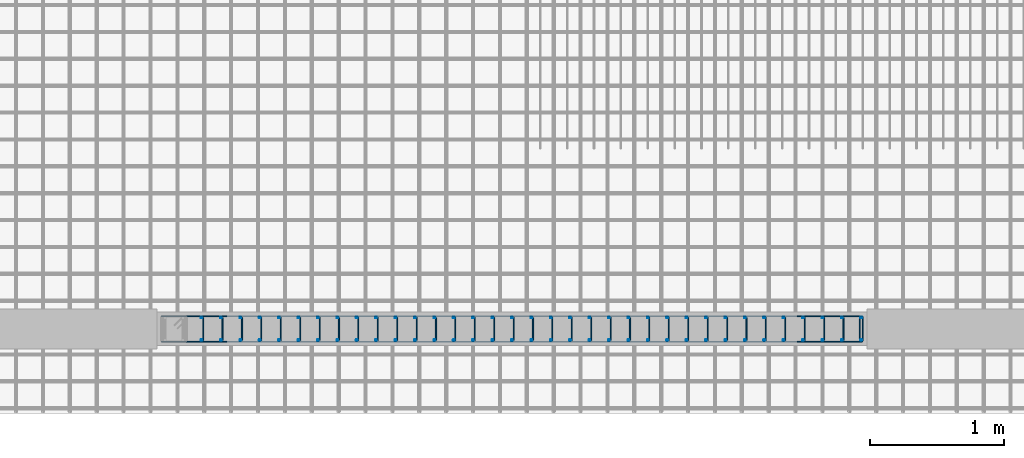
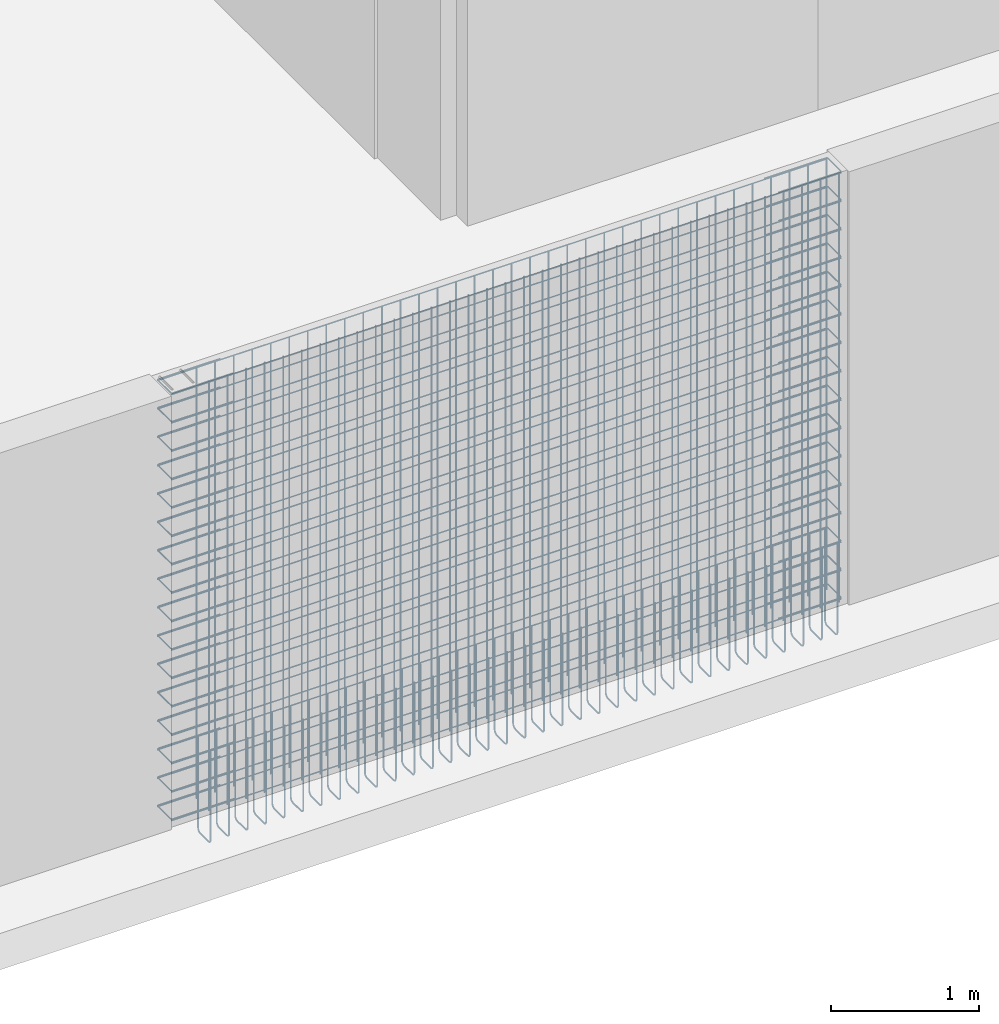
# One storey, part 2 of 8: 4 reinforcing bars.
"""IFC4 building model written with IfcOpenShell, lengths in metres."""

from ifc_helpers import new_model, entity, si_unit, origin_with_axes, place, context, project, spatial, source, transform, mapped, element, save


model = new_model("IFC4")

# Units and contexts
model_context = context("Model", 3, precision=1e-05, world=origin_with_axes())
ifc_project = project(units=[si_unit("LENGTHUNIT", "METRE"), si_unit("AREAUNIT", "SQUARE_METRE"), si_unit("VOLUMEUNIT", "CUBIC_METRE"), si_unit("MASSUNIT", "GRAM", prefix="KILO"), si_unit("TIMEUNIT", "SECOND"), si_unit("PLANEANGLEUNIT", "RADIAN"), si_unit("SOLIDANGLEUNIT", "STERADIAN"), si_unit("THERMODYNAMICTEMPERATUREUNIT", "DEGREE_CELSIUS")], contexts=[model_context])

# Site, building, storey
placement_1 = place(None, origin_with_axes())
site = spatial("IfcSite", under=ifc_project, at=placement_1, Name="Italia", CompositionType="ELEMENT")
building = spatial("IfcBuilding", under=site, at=placement_1, Name="Abitazione", CompositionType="ELEMENT")
storey = spatial("IfcBuildingStorey", under=building, at=placement_1, Name="Storey 0", CompositionType="ELEMENT", Elevation=0.0)

# Reinforcing bars
shared_shape_1 = source(origin_with_axes(), model_context, "Body", "AdvancedSweptSolid", [
    entity("IfcSweptDiskSolid", entity("IfcIndexedPolyCurve", entity("IfcCartesianPointList3D", [[8.089, 0.874, 0.0], [8.089, 0.874, 3.545]]), [entity("IfcLineIndex", [1, 2])], False), 0.006),
])
placement_2 = place(placement_1, origin_with_axes())
reinforcing_bar_1_placement = place(placement_2, origin_with_axes())
element("IfcReinforcingBar", 1, at=reinforcing_bar_1_placement, inside=storey, BarLength=3.545, CrossSectionArea=0.0001131, NominalDiameter=0.012, context=model_context, shape_type="MappedRepresentation", body=[
    mapped(shared_shape_1, transform((-1.44389, -0.168, 0.0), x_axis=(1.0, 0.0, 0.0), y_axis=(0.0, 1.0, 0.0), z_axis=(0.0, 0.0, 1.0), scale=1.0)),
    mapped(shared_shape_1, transform((-1.44389, 0.0, 0.0), x_axis=(1.0, 0.0, 0.0), y_axis=(0.0, 1.0, 0.0), z_axis=(0.0, 0.0, 1.0), scale=1.0)),
    mapped(shared_shape_1, transform((-1.2995, -0.168, 0.0), x_axis=(1.0, 0.0, 0.0), y_axis=(0.0, 1.0, 0.0), z_axis=(0.0, 0.0, 1.0), scale=1.0)),
    mapped(shared_shape_1, transform((-1.2995, 0.0, 0.0), x_axis=(1.0, 0.0, 0.0), y_axis=(0.0, 1.0, 0.0), z_axis=(0.0, 0.0, 1.0), scale=1.0)),
    mapped(shared_shape_1, transform((-2.45461, 0.0, 0.0), x_axis=(1.0, 0.0, 0.0), y_axis=(0.0, 1.0, 0.0), z_axis=(0.0, 0.0, 1.0), scale=1.0)),
    mapped(shared_shape_1, transform((-2.31022, -0.168, 0.0), x_axis=(1.0, 0.0, 0.0), y_axis=(0.0, 1.0, 0.0), z_axis=(0.0, 0.0, 1.0), scale=1.0)),
    mapped(shared_shape_1, transform((-1.58828, -0.168, 0.0), x_axis=(1.0, 0.0, 0.0), y_axis=(0.0, 1.0, 0.0), z_axis=(0.0, 0.0, 1.0), scale=1.0)),
    mapped(shared_shape_1, transform((-1.58828, 0.0, 0.0), x_axis=(1.0, 0.0, 0.0), y_axis=(0.0, 1.0, 0.0), z_axis=(0.0, 0.0, 1.0), scale=1.0)),
    mapped(shared_shape_1, transform((-2.02144, -0.168, 0.0), x_axis=(1.0, 0.0, 0.0), y_axis=(0.0, 1.0, 0.0), z_axis=(0.0, 0.0, 1.0), scale=1.0)),
    mapped(shared_shape_1, transform((-2.02144, 0.0, 0.0), x_axis=(1.0, 0.0, 0.0), y_axis=(0.0, 1.0, 0.0), z_axis=(0.0, 0.0, 1.0), scale=1.0)),
    mapped(shared_shape_1, transform((-1.87706, -0.168, 0.0), x_axis=(1.0, 0.0, 0.0), y_axis=(0.0, 1.0, 0.0), z_axis=(0.0, 0.0, 1.0), scale=1.0)),
    mapped(shared_shape_1, transform((-1.87706, 0.0, 0.0), x_axis=(1.0, 0.0, 0.0), y_axis=(0.0, 1.0, 0.0), z_axis=(0.0, 0.0, 1.0), scale=1.0)),
    mapped(shared_shape_1, transform((-1.73267, -0.168, 0.0), x_axis=(1.0, 0.0, 0.0), y_axis=(0.0, 1.0, 0.0), z_axis=(0.0, 0.0, 1.0), scale=1.0)),
    mapped(shared_shape_1, transform((-1.73267, 0.0, 0.0), x_axis=(1.0, 0.0, 0.0), y_axis=(0.0, 1.0, 0.0), z_axis=(0.0, 0.0, 1.0), scale=1.0)),
    mapped(shared_shape_1, transform((-2.16583, -0.168, 0.0), x_axis=(1.0, 0.0, 0.0), y_axis=(0.0, 1.0, 0.0), z_axis=(0.0, 0.0, 1.0), scale=1.0)),
    mapped(shared_shape_1, transform((-2.16583, 0.0, 0.0), x_axis=(1.0, 0.0, 0.0), y_axis=(0.0, 1.0, 0.0), z_axis=(0.0, 0.0, 1.0), scale=1.0)),
    mapped(shared_shape_1, transform((-0.144389, -0.168, 0.0), x_axis=(1.0, 0.0, 0.0), y_axis=(0.0, 1.0, 0.0), z_axis=(0.0, 0.0, 1.0), scale=1.0)),
    mapped(shared_shape_1, transform((-0.144389, 0.0, 0.0), x_axis=(1.0, 0.0, 0.0), y_axis=(0.0, 1.0, 0.0), z_axis=(0.0, 0.0, 1.0), scale=1.0)),
    mapped(shared_shape_1, transform((0.0, -0.168, 0.0), x_axis=(1.0, 0.0, 0.0), y_axis=(0.0, 1.0, 0.0), z_axis=(0.0, 0.0, 1.0), scale=1.0)),
    mapped(shared_shape_1, transform((-1.15511, -0.168, 0.0), x_axis=(1.0, 0.0, 0.0), y_axis=(0.0, 1.0, 0.0), z_axis=(0.0, 0.0, 1.0), scale=1.0)),
    mapped(shared_shape_1, transform((-1.15511, 0.0, 0.0), x_axis=(1.0, 0.0, 0.0), y_axis=(0.0, 1.0, 0.0), z_axis=(0.0, 0.0, 1.0), scale=1.0)),
    mapped(shared_shape_1, transform((-2.31022, 0.0, 0.0), x_axis=(1.0, 0.0, 0.0), y_axis=(0.0, 1.0, 0.0), z_axis=(0.0, 0.0, 1.0), scale=1.0)),
    mapped(shared_shape_1, transform((-0.288777, -0.168, 0.0), x_axis=(1.0, 0.0, 0.0), y_axis=(0.0, 1.0, 0.0), z_axis=(0.0, 0.0, 1.0), scale=1.0)),
    mapped(shared_shape_1, transform((-0.288777, 0.0, 0.0), x_axis=(1.0, 0.0, 0.0), y_axis=(0.0, 1.0, 0.0), z_axis=(0.0, 0.0, 1.0), scale=1.0)),
    mapped(shared_shape_1, transform((-0.721944, -0.168, 0.0), x_axis=(1.0, 0.0, 0.0), y_axis=(0.0, 1.0, 0.0), z_axis=(0.0, 0.0, 1.0), scale=1.0)),
    mapped(shared_shape_1, transform((-0.721944, 0.0, 0.0), x_axis=(1.0, 0.0, 0.0), y_axis=(0.0, 1.0, 0.0), z_axis=(0.0, 0.0, 1.0), scale=1.0)),
    mapped(shared_shape_1, transform((-0.577556, -0.168, 0.0), x_axis=(1.0, 0.0, 0.0), y_axis=(0.0, 1.0, 0.0), z_axis=(0.0, 0.0, 1.0), scale=1.0)),
    mapped(shared_shape_1, transform((-0.577556, 0.0, 0.0), x_axis=(1.0, 0.0, 0.0), y_axis=(0.0, 1.0, 0.0), z_axis=(0.0, 0.0, 1.0), scale=1.0)),
    mapped(shared_shape_1, transform((-0.433167, -0.168, 0.0), x_axis=(1.0, 0.0, 0.0), y_axis=(0.0, 1.0, 0.0), z_axis=(0.0, 0.0, 1.0), scale=1.0)),
    mapped(shared_shape_1, transform((-0.433167, 0.0, 0.0), x_axis=(1.0, 0.0, 0.0), y_axis=(0.0, 1.0, 0.0), z_axis=(0.0, 0.0, 1.0), scale=1.0)),
    mapped(shared_shape_1, transform((-0.866333, -0.168, 0.0), x_axis=(1.0, 0.0, 0.0), y_axis=(0.0, 1.0, 0.0), z_axis=(0.0, 0.0, 1.0), scale=1.0)),
    mapped(shared_shape_1, transform((-0.866333, 0.0, 0.0), x_axis=(1.0, 0.0, 0.0), y_axis=(0.0, 1.0, 0.0), z_axis=(0.0, 0.0, 1.0), scale=1.0)),
    mapped(shared_shape_1, transform((-3.8985, -0.168, 0.0), x_axis=(1.0, 0.0, 0.0), y_axis=(0.0, 1.0, 0.0), z_axis=(0.0, 0.0, 1.0), scale=1.0)),
    mapped(shared_shape_1, transform((-3.8985, 0.0, 0.0), x_axis=(1.0, 0.0, 0.0), y_axis=(0.0, 1.0, 0.0), z_axis=(0.0, 0.0, 1.0), scale=1.0)),
    mapped(shared_shape_1, transform((0.0, 0.0, 0.0), x_axis=(1.0, 0.0, 0.0), y_axis=(0.0, 1.0, 0.0), z_axis=(0.0, 0.0, 1.0), scale=1.0)),
    mapped(shared_shape_1, transform((-4.90922, -0.168, 0.0), x_axis=(1.0, 0.0, 0.0), y_axis=(0.0, 1.0, 0.0), z_axis=(0.0, 0.0, 1.0), scale=1.0)),
    mapped(shared_shape_1, transform((-1.01072, -0.168, 0.0), x_axis=(1.0, 0.0, 0.0), y_axis=(0.0, 1.0, 0.0), z_axis=(0.0, 0.0, 1.0), scale=1.0)),
    mapped(shared_shape_1, transform((-1.01072, 0.0, 0.0), x_axis=(1.0, 0.0, 0.0), y_axis=(0.0, 1.0, 0.0), z_axis=(0.0, 0.0, 1.0), scale=1.0)),
    mapped(shared_shape_1, transform((-4.04289, -0.168, 0.0), x_axis=(1.0, 0.0, 0.0), y_axis=(0.0, 1.0, 0.0), z_axis=(0.0, 0.0, 1.0), scale=1.0)),
    mapped(shared_shape_1, transform((-4.04289, 0.0, 0.0), x_axis=(1.0, 0.0, 0.0), y_axis=(0.0, 1.0, 0.0), z_axis=(0.0, 0.0, 1.0), scale=1.0)),
    mapped(shared_shape_1, transform((-4.47606, -0.168, 0.0), x_axis=(1.0, 0.0, 0.0), y_axis=(0.0, 1.0, 0.0), z_axis=(0.0, 0.0, 1.0), scale=1.0)),
    mapped(shared_shape_1, transform((-4.47606, 0.0, 0.0), x_axis=(1.0, 0.0, 0.0), y_axis=(0.0, 1.0, 0.0), z_axis=(0.0, 0.0, 1.0), scale=1.0)),
    mapped(shared_shape_1, transform((-4.33167, -0.168, 0.0), x_axis=(1.0, 0.0, 0.0), y_axis=(0.0, 1.0, 0.0), z_axis=(0.0, 0.0, 1.0), scale=1.0)),
    mapped(shared_shape_1, transform((-4.33167, 0.0, 0.0), x_axis=(1.0, 0.0, 0.0), y_axis=(0.0, 1.0, 0.0), z_axis=(0.0, 0.0, 1.0), scale=1.0)),
    mapped(shared_shape_1, transform((-4.18728, -0.168, 0.0), x_axis=(1.0, 0.0, 0.0), y_axis=(0.0, 1.0, 0.0), z_axis=(0.0, 0.0, 1.0), scale=1.0)),
    mapped(shared_shape_1, transform((-4.18728, 0.0, 0.0), x_axis=(1.0, 0.0, 0.0), y_axis=(0.0, 1.0, 0.0), z_axis=(0.0, 0.0, 1.0), scale=1.0)),
    mapped(shared_shape_1, transform((-4.62045, -0.168, 0.0), x_axis=(1.0, 0.0, 0.0), y_axis=(0.0, 1.0, 0.0), z_axis=(0.0, 0.0, 1.0), scale=1.0)),
    mapped(shared_shape_1, transform((-4.62045, 0.0, 0.0), x_axis=(1.0, 0.0, 0.0), y_axis=(0.0, 1.0, 0.0), z_axis=(0.0, 0.0, 1.0), scale=1.0)),
    mapped(shared_shape_1, transform((-2.599, -0.168, 0.0), x_axis=(1.0, 0.0, 0.0), y_axis=(0.0, 1.0, 0.0), z_axis=(0.0, 0.0, 1.0), scale=1.0)),
    mapped(shared_shape_1, transform((-3.75411, -0.168, 0.0), x_axis=(1.0, 0.0, 0.0), y_axis=(0.0, 1.0, 0.0), z_axis=(0.0, 0.0, 1.0), scale=1.0)),
    mapped(shared_shape_1, transform((-3.75411, 0.0, 0.0), x_axis=(1.0, 0.0, 0.0), y_axis=(0.0, 1.0, 0.0), z_axis=(0.0, 0.0, 1.0), scale=1.0)),
    mapped(shared_shape_1, transform((-4.90922, 0.0, 0.0), x_axis=(1.0, 0.0, 0.0), y_axis=(0.0, 1.0, 0.0), z_axis=(0.0, 0.0, 1.0), scale=1.0)),
    mapped(shared_shape_1, transform((-4.76483, -0.168, 0.0), x_axis=(1.0, 0.0, 0.0), y_axis=(0.0, 1.0, 0.0), z_axis=(0.0, 0.0, 1.0), scale=1.0)),
    mapped(shared_shape_1, transform((-4.76483, 0.0, 0.0), x_axis=(1.0, 0.0, 0.0), y_axis=(0.0, 1.0, 0.0), z_axis=(0.0, 0.0, 1.0), scale=1.0)),
    mapped(shared_shape_1, transform((-2.74339, -0.168, 0.0), x_axis=(1.0, 0.0, 0.0), y_axis=(0.0, 1.0, 0.0), z_axis=(0.0, 0.0, 1.0), scale=1.0)),
    mapped(shared_shape_1, transform((-2.74339, 0.0, 0.0), x_axis=(1.0, 0.0, 0.0), y_axis=(0.0, 1.0, 0.0), z_axis=(0.0, 0.0, 1.0), scale=1.0)),
    mapped(shared_shape_1, transform((-3.17656, -0.168, 0.0), x_axis=(1.0, 0.0, 0.0), y_axis=(0.0, 1.0, 0.0), z_axis=(0.0, 0.0, 1.0), scale=1.0)),
    mapped(shared_shape_1, transform((-3.17656, 0.0, 0.0), x_axis=(1.0, 0.0, 0.0), y_axis=(0.0, 1.0, 0.0), z_axis=(0.0, 0.0, 1.0), scale=1.0)),
    mapped(shared_shape_1, transform((-3.03217, -0.168, 0.0), x_axis=(1.0, 0.0, 0.0), y_axis=(0.0, 1.0, 0.0), z_axis=(0.0, 0.0, 1.0), scale=1.0)),
    mapped(shared_shape_1, transform((-3.03217, 0.0, 0.0), x_axis=(1.0, 0.0, 0.0), y_axis=(0.0, 1.0, 0.0), z_axis=(0.0, 0.0, 1.0), scale=1.0)),
    mapped(shared_shape_1, transform((-2.88778, -0.168, 0.0), x_axis=(1.0, 0.0, 0.0), y_axis=(0.0, 1.0, 0.0), z_axis=(0.0, 0.0, 1.0), scale=1.0)),
    mapped(shared_shape_1, transform((-2.88778, 0.0, 0.0), x_axis=(1.0, 0.0, 0.0), y_axis=(0.0, 1.0, 0.0), z_axis=(0.0, 0.0, 1.0), scale=1.0)),
    mapped(shared_shape_1, transform((-3.32094, -0.168, 0.0), x_axis=(1.0, 0.0, 0.0), y_axis=(0.0, 1.0, 0.0), z_axis=(0.0, 0.0, 1.0), scale=1.0)),
    mapped(shared_shape_1, transform((-3.32094, 0.0, 0.0), x_axis=(1.0, 0.0, 0.0), y_axis=(0.0, 1.0, 0.0), z_axis=(0.0, 0.0, 1.0), scale=1.0)),
    mapped(shared_shape_1, transform((-2.599, 0.0, 0.0), x_axis=(1.0, 0.0, 0.0), y_axis=(0.0, 1.0, 0.0), z_axis=(0.0, 0.0, 1.0), scale=1.0)),
    mapped(shared_shape_1, transform((-2.45461, -0.168, 0.0), x_axis=(1.0, 0.0, 0.0), y_axis=(0.0, 1.0, 0.0), z_axis=(0.0, 0.0, 1.0), scale=1.0)),
    mapped(shared_shape_1, transform((-3.60972, -0.168, 0.0), x_axis=(1.0, 0.0, 0.0), y_axis=(0.0, 1.0, 0.0), z_axis=(0.0, 0.0, 1.0), scale=1.0)),
    mapped(shared_shape_1, transform((-3.60972, 0.0, 0.0), x_axis=(1.0, 0.0, 0.0), y_axis=(0.0, 1.0, 0.0), z_axis=(0.0, 0.0, 1.0), scale=1.0)),
    mapped(shared_shape_1, transform((-3.46533, -0.168, 0.0), x_axis=(1.0, 0.0, 0.0), y_axis=(0.0, 1.0, 0.0), z_axis=(0.0, 0.0, 1.0), scale=1.0)),
    mapped(shared_shape_1, transform((-3.46533, 0.0, 0.0), x_axis=(1.0, 0.0, 0.0), y_axis=(0.0, 1.0, 0.0), z_axis=(0.0, 0.0, 1.0), scale=1.0)),
])
shared_shape_2 = source(origin_with_axes(), model_context, "Body", "AdvancedSweptSolid", [
    entity("IfcSweptDiskSolid", entity("IfcIndexedPolyCurve", entity("IfcCartesianPointList3D", [[8.077, 0.874, 0.5], [8.077, 0.874, -0.245], [8.077, 0.871716, -0.256481], [8.077, 0.865213, -0.266213], [8.077, 0.855481, -0.272716], [8.077, 0.844, -0.275], [8.077, 0.774, -0.275]]), [entity("IfcLineIndex", [1, 2]), entity("IfcLineIndex", [2, 3]), entity("IfcLineIndex", [3, 4]), entity("IfcLineIndex", [4, 5]), entity("IfcLineIndex", [5, 6]), entity("IfcLineIndex", [6, 7])], False), 0.006),
])
reinforcing_bar_2_placement = place(placement_2, origin_with_axes())
element("IfcReinforcingBar", 2, at=reinforcing_bar_2_placement, inside=storey, BarLength=0.861822, CrossSectionArea=0.0001131, NominalDiameter=0.012, context=model_context, shape_type="MappedRepresentation", body=[
    mapped(shared_shape_2, transform((14.7341, 1.58, 0.0), x_axis=(-1.0, 0.0, 0.0), y_axis=(0.0, -1.0, 0.0), z_axis=(0.0, 0.0, 1.0), scale=1.0)),
    mapped(shared_shape_2, transform((-1.41989, 0.0, 0.0), x_axis=(1.0, 0.0, 0.0), y_axis=(0.0, 1.0, 0.0), z_axis=(0.0, 0.0, 1.0), scale=1.0)),
    mapped(shared_shape_2, transform((14.8785, 1.58, 0.0), x_axis=(-1.0, 0.0, 0.0), y_axis=(0.0, -1.0, 0.0), z_axis=(0.0, 0.0, 1.0), scale=1.0)),
    mapped(shared_shape_2, transform((-1.2755, 0.0, 0.0), x_axis=(1.0, 0.0, 0.0), y_axis=(0.0, 1.0, 0.0), z_axis=(0.0, 0.0, 1.0), scale=1.0)),
    mapped(shared_shape_2, transform((-2.43061, 0.0, 0.0), x_axis=(1.0, 0.0, 0.0), y_axis=(0.0, 1.0, 0.0), z_axis=(0.0, 0.0, 1.0), scale=1.0)),
    mapped(shared_shape_2, transform((13.8678, 1.58, 0.0), x_axis=(-1.0, 0.0, 0.0), y_axis=(0.0, -1.0, 0.0), z_axis=(0.0, 0.0, 1.0), scale=1.0)),
    mapped(shared_shape_2, transform((14.5897, 1.58, 0.0), x_axis=(-1.0, 0.0, 0.0), y_axis=(0.0, -1.0, 0.0), z_axis=(0.0, 0.0, 1.0), scale=1.0)),
    mapped(shared_shape_2, transform((-1.56428, 0.0, 0.0), x_axis=(1.0, 0.0, 0.0), y_axis=(0.0, 1.0, 0.0), z_axis=(0.0, 0.0, 1.0), scale=1.0)),
    mapped(shared_shape_2, transform((14.1566, 1.58, 0.0), x_axis=(-1.0, 0.0, 0.0), y_axis=(0.0, -1.0, 0.0), z_axis=(0.0, 0.0, 1.0), scale=1.0)),
    mapped(shared_shape_2, transform((-1.99744, 0.0, 0.0), x_axis=(1.0, 0.0, 0.0), y_axis=(0.0, 1.0, 0.0), z_axis=(0.0, 0.0, 1.0), scale=1.0)),
    mapped(shared_shape_2, transform((14.3009, 1.58, 0.0), x_axis=(-1.0, 0.0, 0.0), y_axis=(0.0, -1.0, 0.0), z_axis=(0.0, 0.0, 1.0), scale=1.0)),
    mapped(shared_shape_2, transform((-1.85306, 0.0, 0.0), x_axis=(1.0, 0.0, 0.0), y_axis=(0.0, 1.0, 0.0), z_axis=(0.0, 0.0, 1.0), scale=1.0)),
    mapped(shared_shape_2, transform((14.4453, 1.58, 0.0), x_axis=(-1.0, 0.0, 0.0), y_axis=(0.0, -1.0, 0.0), z_axis=(0.0, 0.0, 1.0), scale=1.0)),
    mapped(shared_shape_2, transform((-1.70867, 0.0, 0.0), x_axis=(1.0, 0.0, 0.0), y_axis=(0.0, 1.0, 0.0), z_axis=(0.0, 0.0, 1.0), scale=1.0)),
    mapped(shared_shape_2, transform((14.0122, 1.58, 0.0), x_axis=(-1.0, 0.0, 0.0), y_axis=(0.0, -1.0, 0.0), z_axis=(0.0, 0.0, 1.0), scale=1.0)),
    mapped(shared_shape_2, transform((-2.14183, 0.0, 0.0), x_axis=(1.0, 0.0, 0.0), y_axis=(0.0, 1.0, 0.0), z_axis=(0.0, 0.0, 1.0), scale=1.0)),
    mapped(shared_shape_2, transform((16.0336, 1.58, 0.0), x_axis=(-1.0, 0.0, 0.0), y_axis=(0.0, -1.0, 0.0), z_axis=(0.0, 0.0, 1.0), scale=1.0)),
    mapped(shared_shape_2, transform((-0.120389, 0.0, 0.0), x_axis=(1.0, 0.0, 0.0), y_axis=(0.0, 1.0, 0.0), z_axis=(0.0, 0.0, 1.0), scale=1.0)),
    mapped(shared_shape_2, transform((16.154, 1.58, 0.0), x_axis=(-1.0, 0.0, 0.0), y_axis=(0.0, -1.0, 0.0), z_axis=(0.0, 0.0, 1.0), scale=1.0)),
    mapped(shared_shape_2, transform((15.0229, 1.58, 0.0), x_axis=(-1.0, 0.0, 0.0), y_axis=(0.0, -1.0, 0.0), z_axis=(0.0, 0.0, 1.0), scale=1.0)),
    mapped(shared_shape_2, transform((-1.13111, 0.0, 0.0), x_axis=(1.0, 0.0, 0.0), y_axis=(0.0, 1.0, 0.0), z_axis=(0.0, 0.0, 1.0), scale=1.0)),
    mapped(shared_shape_2, transform((-2.28622, 0.0, 0.0), x_axis=(1.0, 0.0, 0.0), y_axis=(0.0, 1.0, 0.0), z_axis=(0.0, 0.0, 1.0), scale=1.0)),
    mapped(shared_shape_2, transform((15.8892, 1.58, 0.0), x_axis=(-1.0, 0.0, 0.0), y_axis=(0.0, -1.0, 0.0), z_axis=(0.0, 0.0, 1.0), scale=1.0)),
    mapped(shared_shape_2, transform((-0.264778, 0.0, 0.0), x_axis=(1.0, 0.0, 0.0), y_axis=(0.0, 1.0, 0.0), z_axis=(0.0, 0.0, 1.0), scale=1.0)),
    mapped(shared_shape_2, transform((15.4561, 1.58, 0.0), x_axis=(-1.0, 0.0, 0.0), y_axis=(0.0, -1.0, 0.0), z_axis=(0.0, 0.0, 1.0), scale=1.0)),
    mapped(shared_shape_2, transform((-0.697944, 0.0, 0.0), x_axis=(1.0, 0.0, 0.0), y_axis=(0.0, 1.0, 0.0), z_axis=(0.0, 0.0, 1.0), scale=1.0)),
    mapped(shared_shape_2, transform((15.6004, 1.58, 0.0), x_axis=(-1.0, 0.0, 0.0), y_axis=(0.0, -1.0, 0.0), z_axis=(0.0, 0.0, 1.0), scale=1.0)),
    mapped(shared_shape_2, transform((-0.553555, 0.0, 0.0), x_axis=(1.0, 0.0, 0.0), y_axis=(0.0, 1.0, 0.0), z_axis=(0.0, 0.0, 1.0), scale=1.0)),
    mapped(shared_shape_2, transform((15.7448, 1.58, 0.0), x_axis=(-1.0, 0.0, 0.0), y_axis=(0.0, -1.0, 0.0), z_axis=(0.0, 0.0, 1.0), scale=1.0)),
    mapped(shared_shape_2, transform((-0.409166, 0.0, 0.0), x_axis=(1.0, 0.0, 0.0), y_axis=(0.0, 1.0, 0.0), z_axis=(0.0, 0.0, 1.0), scale=1.0)),
    mapped(shared_shape_2, transform((15.3117, 1.58, 0.0), x_axis=(-1.0, 0.0, 0.0), y_axis=(0.0, -1.0, 0.0), z_axis=(0.0, 0.0, 1.0), scale=1.0)),
    mapped(shared_shape_2, transform((-0.842333, 0.0, 0.0), x_axis=(1.0, 0.0, 0.0), y_axis=(0.0, 1.0, 0.0), z_axis=(0.0, 0.0, 1.0), scale=1.0)),
    mapped(shared_shape_2, transform((12.2795, 1.58, 0.0), x_axis=(-1.0, 0.0, 0.0), y_axis=(0.0, -1.0, 0.0), z_axis=(0.0, 0.0, 1.0), scale=1.0)),
    mapped(shared_shape_2, transform((-3.8745, 0.0, 0.0), x_axis=(1.0, 0.0, 0.0), y_axis=(0.0, 1.0, 0.0), z_axis=(0.0, 0.0, 1.0), scale=1.0)),
    mapped(shared_shape_2, transform((0.0, 0.0, 0.0), x_axis=(1.0, 0.0, 0.0), y_axis=(0.0, 1.0, 0.0), z_axis=(0.0, 0.0, 1.0), scale=1.0)),
    mapped(shared_shape_2, transform((11.2688, 1.58, 0.0), x_axis=(-1.0, 0.0, 0.0), y_axis=(0.0, -1.0, 0.0), z_axis=(0.0, 0.0, 1.0), scale=1.0)),
    mapped(shared_shape_2, transform((15.1673, 1.58, 0.0), x_axis=(-1.0, 0.0, 0.0), y_axis=(0.0, -1.0, 0.0), z_axis=(0.0, 0.0, 1.0), scale=1.0)),
    mapped(shared_shape_2, transform((-0.986722, 0.0, 0.0), x_axis=(1.0, 0.0, 0.0), y_axis=(0.0, 1.0, 0.0), z_axis=(0.0, 0.0, 1.0), scale=1.0)),
    mapped(shared_shape_2, transform((12.1351, 1.58, 0.0), x_axis=(-1.0, 0.0, 0.0), y_axis=(0.0, -1.0, 0.0), z_axis=(0.0, 0.0, 1.0), scale=1.0)),
    mapped(shared_shape_2, transform((-4.01889, 0.0, 0.0), x_axis=(1.0, 0.0, 0.0), y_axis=(0.0, 1.0, 0.0), z_axis=(0.0, 0.0, 1.0), scale=1.0)),
    mapped(shared_shape_2, transform((11.7019, 1.58, 0.0), x_axis=(-1.0, 0.0, 0.0), y_axis=(0.0, -1.0, 0.0), z_axis=(0.0, 0.0, 1.0), scale=1.0)),
    mapped(shared_shape_2, transform((-4.45206, 0.0, 0.0), x_axis=(1.0, 0.0, 0.0), y_axis=(0.0, 1.0, 0.0), z_axis=(0.0, 0.0, 1.0), scale=1.0)),
    mapped(shared_shape_2, transform((11.8463, 1.58, 0.0), x_axis=(-1.0, 0.0, 0.0), y_axis=(0.0, -1.0, 0.0), z_axis=(0.0, 0.0, 1.0), scale=1.0)),
    mapped(shared_shape_2, transform((-4.30767, 0.0, 0.0), x_axis=(1.0, 0.0, 0.0), y_axis=(0.0, 1.0, 0.0), z_axis=(0.0, 0.0, 1.0), scale=1.0)),
    mapped(shared_shape_2, transform((11.9907, 1.58, 0.0), x_axis=(-1.0, 0.0, 0.0), y_axis=(0.0, -1.0, 0.0), z_axis=(0.0, 0.0, 1.0), scale=1.0)),
    mapped(shared_shape_2, transform((-4.16328, 0.0, 0.0), x_axis=(1.0, 0.0, 0.0), y_axis=(0.0, 1.0, 0.0), z_axis=(0.0, 0.0, 1.0), scale=1.0)),
    mapped(shared_shape_2, transform((11.5576, 1.58, 0.0), x_axis=(-1.0, 0.0, 0.0), y_axis=(0.0, -1.0, 0.0), z_axis=(0.0, 0.0, 1.0), scale=1.0)),
    mapped(shared_shape_2, transform((-4.59645, 0.0, 0.0), x_axis=(1.0, 0.0, 0.0), y_axis=(0.0, 1.0, 0.0), z_axis=(0.0, 0.0, 1.0), scale=1.0)),
    mapped(shared_shape_2, transform((13.579, 1.58, 0.0), x_axis=(-1.0, 0.0, 0.0), y_axis=(0.0, -1.0, 0.0), z_axis=(0.0, 0.0, 1.0), scale=1.0)),
    mapped(shared_shape_2, transform((12.4239, 1.58, 0.0), x_axis=(-1.0, 0.0, 0.0), y_axis=(0.0, -1.0, 0.0), z_axis=(0.0, 0.0, 1.0), scale=1.0)),
    mapped(shared_shape_2, transform((-3.73011, 0.0, 0.0), x_axis=(1.0, 0.0, 0.0), y_axis=(0.0, 1.0, 0.0), z_axis=(0.0, 0.0, 1.0), scale=1.0)),
    mapped(shared_shape_2, transform((-4.88522, 0.0, 0.0), x_axis=(1.0, 0.0, 0.0), y_axis=(0.0, 1.0, 0.0), z_axis=(0.0, 0.0, 1.0), scale=1.0)),
    mapped(shared_shape_2, transform((11.4132, 1.58, 0.0), x_axis=(-1.0, 0.0, 0.0), y_axis=(0.0, -1.0, 0.0), z_axis=(0.0, 0.0, 1.0), scale=1.0)),
    mapped(shared_shape_2, transform((-4.74083, 0.0, 0.0), x_axis=(1.0, 0.0, 0.0), y_axis=(0.0, 1.0, 0.0), z_axis=(0.0, 0.0, 1.0), scale=1.0)),
    mapped(shared_shape_2, transform((13.4346, 1.58, 0.0), x_axis=(-1.0, 0.0, 0.0), y_axis=(0.0, -1.0, 0.0), z_axis=(0.0, 0.0, 1.0), scale=1.0)),
    mapped(shared_shape_2, transform((-2.71939, 0.0, 0.0), x_axis=(1.0, 0.0, 0.0), y_axis=(0.0, 1.0, 0.0), z_axis=(0.0, 0.0, 1.0), scale=1.0)),
    mapped(shared_shape_2, transform((13.0014, 1.58, 0.0), x_axis=(-1.0, 0.0, 0.0), y_axis=(0.0, -1.0, 0.0), z_axis=(0.0, 0.0, 1.0), scale=1.0)),
    mapped(shared_shape_2, transform((-3.15256, 0.0, 0.0), x_axis=(1.0, 0.0, 0.0), y_axis=(0.0, 1.0, 0.0), z_axis=(0.0, 0.0, 1.0), scale=1.0)),
    mapped(shared_shape_2, transform((13.1458, 1.58, 0.0), x_axis=(-1.0, 0.0, 0.0), y_axis=(0.0, -1.0, 0.0), z_axis=(0.0, 0.0, 1.0), scale=1.0)),
    mapped(shared_shape_2, transform((-3.00817, 0.0, 0.0), x_axis=(1.0, 0.0, 0.0), y_axis=(0.0, 1.0, 0.0), z_axis=(0.0, 0.0, 1.0), scale=1.0)),
    mapped(shared_shape_2, transform((13.2902, 1.58, 0.0), x_axis=(-1.0, 0.0, 0.0), y_axis=(0.0, -1.0, 0.0), z_axis=(0.0, 0.0, 1.0), scale=1.0)),
    mapped(shared_shape_2, transform((-2.86378, 0.0, 0.0), x_axis=(1.0, 0.0, 0.0), y_axis=(0.0, 1.0, 0.0), z_axis=(0.0, 0.0, 1.0), scale=1.0)),
    mapped(shared_shape_2, transform((12.8571, 1.58, 0.0), x_axis=(-1.0, 0.0, 0.0), y_axis=(0.0, -1.0, 0.0), z_axis=(0.0, 0.0, 1.0), scale=1.0)),
    mapped(shared_shape_2, transform((-3.29694, 0.0, 0.0), x_axis=(1.0, 0.0, 0.0), y_axis=(0.0, 1.0, 0.0), z_axis=(0.0, 0.0, 1.0), scale=1.0)),
    mapped(shared_shape_2, transform((-2.575, 0.0, 0.0), x_axis=(1.0, 0.0, 0.0), y_axis=(0.0, 1.0, 0.0), z_axis=(0.0, 0.0, 1.0), scale=1.0)),
    mapped(shared_shape_2, transform((13.7234, 1.58, 0.0), x_axis=(-1.0, 0.0, 0.0), y_axis=(0.0, -1.0, 0.0), z_axis=(0.0, 0.0, 1.0), scale=1.0)),
    mapped(shared_shape_2, transform((12.5683, 1.58, 0.0), x_axis=(-1.0, 0.0, 0.0), y_axis=(0.0, -1.0, 0.0), z_axis=(0.0, 0.0, 1.0), scale=1.0)),
    mapped(shared_shape_2, transform((-3.58572, 0.0, 0.0), x_axis=(1.0, 0.0, 0.0), y_axis=(0.0, 1.0, 0.0), z_axis=(0.0, 0.0, 1.0), scale=1.0)),
    mapped(shared_shape_2, transform((12.7127, 1.58, 0.0), x_axis=(-1.0, 0.0, 0.0), y_axis=(0.0, -1.0, 0.0), z_axis=(0.0, 0.0, 1.0), scale=1.0)),
    mapped(shared_shape_2, transform((-3.44133, 0.0, 0.0), x_axis=(1.0, 0.0, 0.0), y_axis=(0.0, 1.0, 0.0), z_axis=(0.0, 0.0, 1.0), scale=1.0)),
])
shared_shape_3 = source(origin_with_axes(), model_context, "Body", "AdvancedSweptSolid", [
    entity("IfcSweptDiskSolid", entity("IfcIndexedPolyCurve", entity("IfcCartesianPointList3D", [[8.1, 0.695, 0.03], [2.88, 0.695, 0.03]]), [entity("IfcLineIndex", [1, 2])], False), 0.005),
])
reinforcing_bar_3_placement = place(placement_2, origin_with_axes())
element("IfcReinforcingBar", 3, at=reinforcing_bar_3_placement, inside=storey, BarLength=5.22, CrossSectionArea=7.854e-05, NominalDiameter=0.01, context=model_context, shape_type="MappedRepresentation", body=[
    mapped(shared_shape_3, transform((0.0, 0.0, 2.34), x_axis=(1.0, 0.0, 0.0), y_axis=(0.0, 1.0, 0.0), z_axis=(0.0, 0.0, 1.0), scale=1.0)),
    mapped(shared_shape_3, transform((0.0, 0.0, 2.574), x_axis=(1.0, 0.0, 0.0), y_axis=(0.0, 1.0, 0.0), z_axis=(0.0, 0.0, 1.0), scale=1.0)),
    mapped(shared_shape_3, transform((0.0, 0.0, 1.872), x_axis=(1.0, 0.0, 0.0), y_axis=(0.0, 1.0, 0.0), z_axis=(0.0, 0.0, 1.0), scale=1.0)),
    mapped(shared_shape_3, transform((0.0, 0.0, 2.106), x_axis=(1.0, 0.0, 0.0), y_axis=(0.0, 1.0, 0.0), z_axis=(0.0, 0.0, 1.0), scale=1.0)),
    mapped(shared_shape_3, transform((0.0, 0.0, 3.276), x_axis=(1.0, 0.0, 0.0), y_axis=(0.0, 1.0, 0.0), z_axis=(0.0, 0.0, 1.0), scale=1.0)),
    mapped(shared_shape_3, transform((0.0, 0.0, 3.51), x_axis=(1.0, 0.0, 0.0), y_axis=(0.0, 1.0, 0.0), z_axis=(0.0, 0.0, 1.0), scale=1.0)),
    mapped(shared_shape_3, transform((0.0, 0.0, 2.808), x_axis=(1.0, 0.0, 0.0), y_axis=(0.0, 1.0, 0.0), z_axis=(0.0, 0.0, 1.0), scale=1.0)),
    mapped(shared_shape_3, transform((0.0, 0.0, 3.042), x_axis=(1.0, 0.0, 0.0), y_axis=(0.0, 1.0, 0.0), z_axis=(0.0, 0.0, 1.0), scale=1.0)),
    mapped(shared_shape_3, transform((0.0, 0.0, 0.468), x_axis=(1.0, 0.0, 0.0), y_axis=(0.0, 1.0, 0.0), z_axis=(0.0, 0.0, 1.0), scale=1.0)),
    mapped(shared_shape_3, transform((0.0, 0.0, 0.702), x_axis=(1.0, 0.0, 0.0), y_axis=(0.0, 1.0, 0.0), z_axis=(0.0, 0.0, 1.0), scale=1.0)),
    mapped(shared_shape_3, transform((10.98, 1.58, 0.0), x_axis=(-1.0, 0.0, 0.0), y_axis=(0.0, -1.0, 0.0), z_axis=(0.0, 0.0, 1.0), scale=1.0)),
    mapped(shared_shape_3, transform((0.0, 0.0, 0.0), x_axis=(1.0, 0.0, 0.0), y_axis=(0.0, 1.0, 0.0), z_axis=(0.0, 0.0, 1.0), scale=1.0)),
    mapped(shared_shape_3, transform((10.98, 1.58, 0.234), x_axis=(-1.0, 0.0, 0.0), y_axis=(0.0, -1.0, 0.0), z_axis=(0.0, 0.0, 1.0), scale=1.0)),
    mapped(shared_shape_3, transform((0.0, 0.0, 0.234), x_axis=(1.0, 0.0, 0.0), y_axis=(0.0, 1.0, 0.0), z_axis=(0.0, 0.0, 1.0), scale=1.0)),
    mapped(shared_shape_3, transform((10.98, 1.58, 0.468), x_axis=(-1.0, 0.0, 0.0), y_axis=(0.0, -1.0, 0.0), z_axis=(0.0, 0.0, 1.0), scale=1.0)),
    mapped(shared_shape_3, transform((10.98, 1.58, 0.702), x_axis=(-1.0, 0.0, 0.0), y_axis=(0.0, -1.0, 0.0), z_axis=(0.0, 0.0, 1.0), scale=1.0)),
    mapped(shared_shape_3, transform((0.0, 0.0, 1.404), x_axis=(1.0, 0.0, 0.0), y_axis=(0.0, 1.0, 0.0), z_axis=(0.0, 0.0, 1.0), scale=1.0)),
    mapped(shared_shape_3, transform((0.0, 0.0, 1.638), x_axis=(1.0, 0.0, 0.0), y_axis=(0.0, 1.0, 0.0), z_axis=(0.0, 0.0, 1.0), scale=1.0)),
    mapped(shared_shape_3, transform((10.98, 1.58, 0.936), x_axis=(-1.0, 0.0, 0.0), y_axis=(0.0, -1.0, 0.0), z_axis=(0.0, 0.0, 1.0), scale=1.0)),
    mapped(shared_shape_3, transform((0.0, 0.0, 0.936), x_axis=(1.0, 0.0, 0.0), y_axis=(0.0, 1.0, 0.0), z_axis=(0.0, 0.0, 1.0), scale=1.0)),
    mapped(shared_shape_3, transform((10.98, 1.58, 1.17), x_axis=(-1.0, 0.0, 0.0), y_axis=(0.0, -1.0, 0.0), z_axis=(0.0, 0.0, 1.0), scale=1.0)),
    mapped(shared_shape_3, transform((0.0, 0.0, 1.17), x_axis=(1.0, 0.0, 0.0), y_axis=(0.0, 1.0, 0.0), z_axis=(0.0, 0.0, 1.0), scale=1.0)),
    mapped(shared_shape_3, transform((10.98, 1.58, 2.34), x_axis=(-1.0, 0.0, 0.0), y_axis=(0.0, -1.0, 0.0), z_axis=(0.0, 0.0, 1.0), scale=1.0)),
    mapped(shared_shape_3, transform((10.98, 1.58, 2.574), x_axis=(-1.0, 0.0, 0.0), y_axis=(0.0, -1.0, 0.0), z_axis=(0.0, 0.0, 1.0), scale=1.0)),
    mapped(shared_shape_3, transform((10.98, 1.58, 1.872), x_axis=(-1.0, 0.0, 0.0), y_axis=(0.0, -1.0, 0.0), z_axis=(0.0, 0.0, 1.0), scale=1.0)),
    mapped(shared_shape_3, transform((10.98, 1.58, 2.106), x_axis=(-1.0, 0.0, 0.0), y_axis=(0.0, -1.0, 0.0), z_axis=(0.0, 0.0, 1.0), scale=1.0)),
    mapped(shared_shape_3, transform((10.98, 1.58, 3.276), x_axis=(-1.0, 0.0, 0.0), y_axis=(0.0, -1.0, 0.0), z_axis=(0.0, 0.0, 1.0), scale=1.0)),
    mapped(shared_shape_3, transform((10.98, 1.58, 3.51), x_axis=(-1.0, 0.0, 0.0), y_axis=(0.0, -1.0, 0.0), z_axis=(0.0, 0.0, 1.0), scale=1.0)),
    mapped(shared_shape_3, transform((10.98, 1.58, 2.808), x_axis=(-1.0, 0.0, 0.0), y_axis=(0.0, -1.0, 0.0), z_axis=(0.0, 0.0, 1.0), scale=1.0)),
    mapped(shared_shape_3, transform((10.98, 1.58, 3.042), x_axis=(-1.0, 0.0, 0.0), y_axis=(0.0, -1.0, 0.0), z_axis=(0.0, 0.0, 1.0), scale=1.0)),
    mapped(shared_shape_3, transform((10.98, 1.58, 1.404), x_axis=(-1.0, 0.0, 0.0), y_axis=(0.0, -1.0, 0.0), z_axis=(0.0, 0.0, 1.0), scale=1.0)),
    mapped(shared_shape_3, transform((10.98, 1.58, 1.638), x_axis=(-1.0, 0.0, 0.0), y_axis=(0.0, -1.0, 0.0), z_axis=(0.0, 0.0, 1.0), scale=1.0)),
])
shared_shape_4 = source(origin_with_axes(), model_context, "Body", "AdvancedSweptSolid", [
    entity("IfcSweptDiskSolid", entity("IfcIndexedPolyCurve", entity("IfcCartesianPointList3D", [[7.61, 0.885, 0.04], [8.09, 0.885, 0.04], [8.09383, 0.884239, 0.04], [8.09707, 0.882071, 0.04], [8.09924, 0.878827, 0.04], [8.1, 0.875, 0.04], [8.1, 0.705, 0.04], [8.09924, 0.701173, 0.04], [8.09707, 0.697929, 0.04], [8.09383, 0.695761, 0.04], [8.09, 0.695, 0.04], [7.61, 0.695, 0.04]]), [entity("IfcLineIndex", [1, 2]), entity("IfcLineIndex", [2, 3]), entity("IfcLineIndex", [3, 4]), entity("IfcLineIndex", [4, 5]), entity("IfcLineIndex", [5, 6]), entity("IfcLineIndex", [6, 7]), entity("IfcLineIndex", [7, 8]), entity("IfcLineIndex", [8, 9]), entity("IfcLineIndex", [9, 10]), entity("IfcLineIndex", [10, 11]), entity("IfcLineIndex", [11, 12])], False), 0.005),
])
reinforcing_bar_4_placement = place(placement_2, origin_with_axes())
element("IfcReinforcingBar", 4, at=reinforcing_bar_4_placement, inside=storey, BarLength=1.16121, CrossSectionArea=7.854e-05, NominalDiameter=0.01, context=model_context, shape_type="MappedRepresentation", body=[
    mapped(shared_shape_4, transform((0.0, 0.0, 2.34), x_axis=(1.0, 0.0, 0.0), y_axis=(0.0, 1.0, 0.0), z_axis=(0.0, 0.0, 1.0), scale=1.0)),
    mapped(shared_shape_4, transform((0.0, 0.0, 2.574), x_axis=(1.0, 0.0, 0.0), y_axis=(0.0, 1.0, 0.0), z_axis=(0.0, 0.0, 1.0), scale=1.0)),
    mapped(shared_shape_4, transform((0.0, 0.0, 1.872), x_axis=(1.0, 0.0, 0.0), y_axis=(0.0, 1.0, 0.0), z_axis=(0.0, 0.0, 1.0), scale=1.0)),
    mapped(shared_shape_4, transform((0.0, 0.0, 2.106), x_axis=(1.0, 0.0, 0.0), y_axis=(0.0, 1.0, 0.0), z_axis=(0.0, 0.0, 1.0), scale=1.0)),
    mapped(shared_shape_4, transform((0.0, 0.0, 3.276), x_axis=(1.0, 0.0, 0.0), y_axis=(0.0, 1.0, 0.0), z_axis=(0.0, 0.0, 1.0), scale=1.0)),
    mapped(shared_shape_4, transform((0.0, 0.0, 3.51), x_axis=(1.0, 0.0, 0.0), y_axis=(0.0, 1.0, 0.0), z_axis=(0.0, 0.0, 1.0), scale=1.0)),
    mapped(shared_shape_4, transform((0.0, 0.0, 2.808), x_axis=(1.0, 0.0, 0.0), y_axis=(0.0, 1.0, 0.0), z_axis=(0.0, 0.0, 1.0), scale=1.0)),
    mapped(shared_shape_4, transform((0.0, 0.0, 3.042), x_axis=(1.0, 0.0, 0.0), y_axis=(0.0, 1.0, 0.0), z_axis=(0.0, 0.0, 1.0), scale=1.0)),
    mapped(shared_shape_4, transform((0.0, 0.0, 0.468), x_axis=(1.0, 0.0, 0.0), y_axis=(0.0, 1.0, 0.0), z_axis=(0.0, 0.0, 1.0), scale=1.0)),
    mapped(shared_shape_4, transform((0.0, 0.0, 0.702), x_axis=(1.0, 0.0, 0.0), y_axis=(0.0, 1.0, 0.0), z_axis=(0.0, 0.0, 1.0), scale=1.0)),
    mapped(shared_shape_4, transform((10.98, 1.58, 0.0), x_axis=(-1.0, 0.0, 0.0), y_axis=(0.0, -1.0, 0.0), z_axis=(0.0, 0.0, 1.0), scale=1.0)),
    mapped(shared_shape_4, transform((0.0, 0.0, 0.0), x_axis=(1.0, 0.0, 0.0), y_axis=(0.0, 1.0, 0.0), z_axis=(0.0, 0.0, 1.0), scale=1.0)),
    mapped(shared_shape_4, transform((10.98, 1.58, 0.234), x_axis=(-1.0, 0.0, 0.0), y_axis=(0.0, -1.0, 0.0), z_axis=(0.0, 0.0, 1.0), scale=1.0)),
    mapped(shared_shape_4, transform((0.0, 0.0, 0.234), x_axis=(1.0, 0.0, 0.0), y_axis=(0.0, 1.0, 0.0), z_axis=(0.0, 0.0, 1.0), scale=1.0)),
    mapped(shared_shape_4, transform((10.98, 1.58, 0.468), x_axis=(-1.0, 0.0, 0.0), y_axis=(0.0, -1.0, 0.0), z_axis=(0.0, 0.0, 1.0), scale=1.0)),
    mapped(shared_shape_4, transform((10.98, 1.58, 0.702), x_axis=(-1.0, 0.0, 0.0), y_axis=(0.0, -1.0, 0.0), z_axis=(0.0, 0.0, 1.0), scale=1.0)),
    mapped(shared_shape_4, transform((0.0, 0.0, 1.404), x_axis=(1.0, 0.0, 0.0), y_axis=(0.0, 1.0, 0.0), z_axis=(0.0, 0.0, 1.0), scale=1.0)),
    mapped(shared_shape_4, transform((0.0, 0.0, 1.638), x_axis=(1.0, 0.0, 0.0), y_axis=(0.0, 1.0, 0.0), z_axis=(0.0, 0.0, 1.0), scale=1.0)),
    mapped(shared_shape_4, transform((10.98, 1.58, 0.936), x_axis=(-1.0, 0.0, 0.0), y_axis=(0.0, -1.0, 0.0), z_axis=(0.0, 0.0, 1.0), scale=1.0)),
    mapped(shared_shape_4, transform((0.0, 0.0, 0.936), x_axis=(1.0, 0.0, 0.0), y_axis=(0.0, 1.0, 0.0), z_axis=(0.0, 0.0, 1.0), scale=1.0)),
    mapped(shared_shape_4, transform((10.98, 1.58, 1.17), x_axis=(-1.0, 0.0, 0.0), y_axis=(0.0, -1.0, 0.0), z_axis=(0.0, 0.0, 1.0), scale=1.0)),
    mapped(shared_shape_4, transform((0.0, 0.0, 1.17), x_axis=(1.0, 0.0, 0.0), y_axis=(0.0, 1.0, 0.0), z_axis=(0.0, 0.0, 1.0), scale=1.0)),
    mapped(shared_shape_4, transform((10.98, 1.58, 2.34), x_axis=(-1.0, 0.0, 0.0), y_axis=(0.0, -1.0, 0.0), z_axis=(0.0, 0.0, 1.0), scale=1.0)),
    mapped(shared_shape_4, transform((10.98, 1.58, 2.574), x_axis=(-1.0, 0.0, 0.0), y_axis=(0.0, -1.0, 0.0), z_axis=(0.0, 0.0, 1.0), scale=1.0)),
    mapped(shared_shape_4, transform((10.98, 1.58, 1.872), x_axis=(-1.0, 0.0, 0.0), y_axis=(0.0, -1.0, 0.0), z_axis=(0.0, 0.0, 1.0), scale=1.0)),
    mapped(shared_shape_4, transform((10.98, 1.58, 2.106), x_axis=(-1.0, 0.0, 0.0), y_axis=(0.0, -1.0, 0.0), z_axis=(0.0, 0.0, 1.0), scale=1.0)),
    mapped(shared_shape_4, transform((10.98, 1.58, 3.276), x_axis=(-1.0, 0.0, 0.0), y_axis=(0.0, -1.0, 0.0), z_axis=(0.0, 0.0, 1.0), scale=1.0)),
    mapped(shared_shape_4, transform((10.98, 1.58, 3.51), x_axis=(-1.0, 0.0, 0.0), y_axis=(0.0, -1.0, 0.0), z_axis=(0.0, 0.0, 1.0), scale=1.0)),
    mapped(shared_shape_4, transform((10.98, 1.58, 2.808), x_axis=(-1.0, 0.0, 0.0), y_axis=(0.0, -1.0, 0.0), z_axis=(0.0, 0.0, 1.0), scale=1.0)),
    mapped(shared_shape_4, transform((10.98, 1.58, 3.042), x_axis=(-1.0, 0.0, 0.0), y_axis=(0.0, -1.0, 0.0), z_axis=(0.0, 0.0, 1.0), scale=1.0)),
    mapped(shared_shape_4, transform((10.98, 1.58, 1.404), x_axis=(-1.0, 0.0, 0.0), y_axis=(0.0, -1.0, 0.0), z_axis=(0.0, 0.0, 1.0), scale=1.0)),
    mapped(shared_shape_4, transform((10.98, 1.58, 1.638), x_axis=(-1.0, 0.0, 0.0), y_axis=(0.0, -1.0, 0.0), z_axis=(0.0, 0.0, 1.0), scale=1.0)),
])

save(model, "model.ifc")
